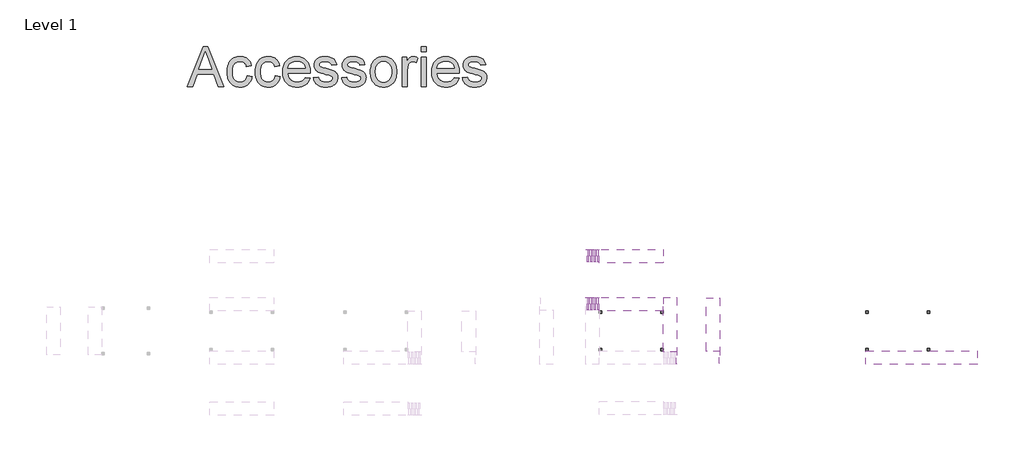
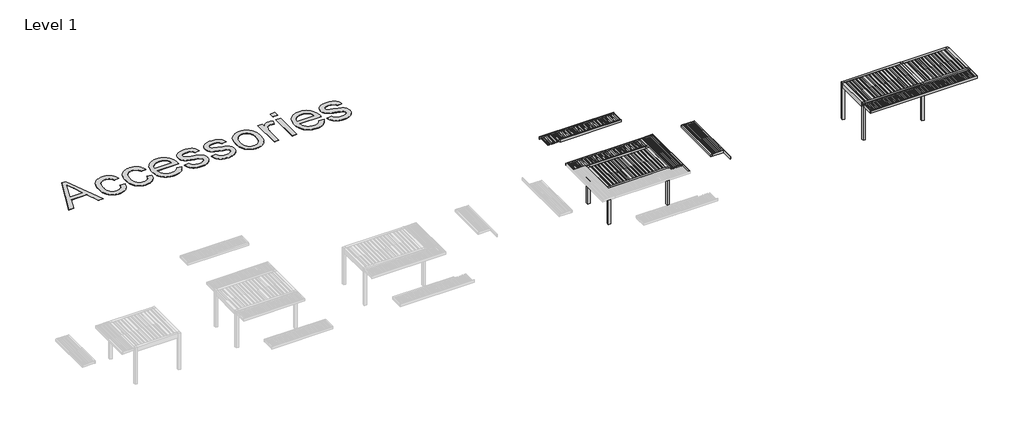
# One storey, part 80 of 80: 8 proxies.
"""IFC4 building model written with IfcOpenShell, lengths in millimetres."""

from ifc_helpers import new_model, si_unit, origin, origin_with_axes, place, context, project, spatial, polyline, outline, extrude, transform, mapped, element, save
from components import generic_models_fbfd15e4, generic_models_1ecb08e6, generic_models_1129b3c2, generic_models_e44263f4, generic_models_2a29c63b, generic_models_a3065196

model = new_model("IFC4")

# Units and contexts
model_context = context("Model", 3, world=origin())
ifc_project = project(units=[si_unit("LENGTHUNIT", "METRE", prefix="MILLI")], contexts=[model_context])

# Site, building, storey
site = spatial("IfcSite", under=ifc_project)
building = spatial("IfcBuilding", under=site)
storey = spatial("IfcBuildingStorey", under=building, Name="Level 1", Elevation=0.0)

# Proxies
placement = place(None, origin())
generic_models_shape = generic_models_fbfd15e4(model_context)
element("IfcBuildingElementProxy", 1, Name="Renson_Amani_Canopy : Renson_Amani_Canopy", ObjectType="Renson_Amani_Canopy : Renson_Amani_Canopy", at=placement, inside=storey, context=model_context, shape_type="MappedRepresentation", body=[
    mapped(generic_models_shape, transform((418390.0966626, 69028.5861401, 2535.0), x_axis=(-1.0, 0.0, 0.0), y_axis=(0.0, -1.0, 0.0), z_axis=(0.0, 0.0, 1.0))),
])
element("IfcBuildingElementProxy", 2, Name="Renson_Amani_Canopy : Renson_Amani_Canopy", ObjectType="Renson_Amani_Canopy : Renson_Amani_Canopy", at=placement, inside=storey, context=model_context, shape_type="MappedRepresentation", body=[
    mapped(generic_models_shape, transform((418390.0966626, 72028.5861401, 2535.0), x_axis=(-1.0, 0.0, 0.0), y_axis=(0.0, -1.0, 0.0), z_axis=(0.0, 0.0, 1.0))),
])
generic_models_2_shape = generic_models_1ecb08e6(model_context)
element("IfcBuildingElementProxy", 3, Name="Renson_Amani_Canopy : Renson_Amani_Canopy", ObjectType="Renson_Amani_Canopy : Renson_Amani_Canopy", at=placement, inside=storey, context=model_context, shape_type="MappedRepresentation", body=[
    mapped(generic_models_2_shape, transform((421090.0966626, 66493.5861401, 2535.0), x_axis=(0.0, 1.0, 0.0), y_axis=(-1.0, 0.0, 0.0), z_axis=(0.0, 0.0, 1.0))),
])
generic_models_3_shape = generic_models_1129b3c2(model_context)
element("IfcBuildingElementProxy", 4, Name="Renson_Amani_Canopy : Renson_Amani_Canopy", ObjectType="Renson_Amani_Canopy : Renson_Amani_Canopy", at=placement, inside=storey, context=model_context, shape_type="MappedRepresentation", body=[
    mapped(generic_models_3_shape, transform((418390.0966626, 66458.5861401, 2535.0), x_axis=(0.0, 1.0, 0.0), y_axis=(-1.0, 0.0, 0.0), z_axis=(0.0, 0.0, 1.0))),
])
generic_models_4_shape = generic_models_e44263f4(model_context)
element("IfcBuildingElementProxy", 5, Name="Renson_Amani_Patio_Cover : Renson_Amani_Patio_Cover", ObjectType="Renson_Amani_Patio_Cover : Renson_Amani_Patio_Cover", at=placement, inside=storey, context=model_context, shape_type="MappedRepresentation", body=[
    mapped(generic_models_4_shape, transform((416390.0966626, 67778.5861401, 0.0), x_axis=(1.0, 0.0, 0.0), y_axis=(0.0, 1.0, 0.0), z_axis=(0.0, 0.0, 1.0))),
])
generic_models_5_shape = generic_models_2a29c63b(model_context)
element("IfcBuildingElementProxy", 6, Name="Renson_Amani_Patio_Cover : Renson_Amani_Patio_Cover", ObjectType="Renson_Amani_Patio_Cover : Renson_Amani_Patio_Cover", at=placement, inside=storey, context=model_context, shape_type="MappedRepresentation", body=[
    mapped(generic_models_5_shape, transform((433090.0966626, 67778.5861401, 0.0), x_axis=(1.0, 0.0, 0.0), y_axis=(0.0, 1.0, 0.0), z_axis=(0.0, 0.0, 1.0))),
])
generic_models_6_shape = generic_models_a3065196(model_context)
element("IfcBuildingElementProxy", 7, Name="Renson_Amani_Canopy : Renson_Amani_Canopy", ObjectType="Renson_Amani_Canopy : Renson_Amani_Canopy", at=placement, inside=storey, context=model_context, shape_type="MappedRepresentation", body=[
    mapped(generic_models_6_shape, transform((431090.0966626, 66528.5861401, 2535.0), x_axis=(1.0, 0.0, 0.0), y_axis=(0.0, 1.0, 0.0), z_axis=(0.0, 0.0, 1.0))),
])
element("IfcBuildingElementProxy", 8, Name="2500 mm Arial", ObjectType="2500 mm Arial", at=placement, inside=storey, context=model_context, shape_type="SweptSolid", body=[
    extrude(outline(polyline([(388568.2000815, 83108.8344652), (389570.6785183, 85620.2422189), (389838.0061015, 85620.2422189), (390840.4845383, 83108.8344652), (390508.777606, 83108.8344652), (390221.2165131, 83893.6493882), (389186.85497, 83893.6493882), (388899.9070138, 83108.8344652), (388568.2000815, 83108.8344652)]), holes=[polyline([(389302.1246618, 84207.5753575), (390106.559958, 84207.5753575), (389880.3125309, 84825.0039727), (389704.3423099, 85306.3162497), (389547.992462, 84878.9599987), (389302.1246618, 84207.5753575)])]), origin_with_axes(), (0.0, 0.0, 1.0), 5.0),
    extrude(outline(polyline([(392313.851929, 83775.9271498), (392627.7778982, 83736.6864036), (392613.1105197, 83660.4898034), (392593.6338506, 83588.556419), (392569.3478907, 83520.8862504), (392540.2526402, 83457.4792977), (392506.3480991, 83398.3355608), (392467.6342672, 83343.4550397), (392424.1111447, 83292.8377345), (392375.7787316, 83246.4836451), (392323.604634, 83205.0250687), (392268.5564584, 83169.0943024), (392210.6342047, 83138.6913464), (392149.8378728, 83113.8162006), (392086.167463, 83094.4688649), (392019.622975, 83080.6493394), (391950.2044089, 83072.3576241), (391877.9117647, 83069.593719), (391787.6034411, 83073.4497738), (391701.8457411, 83085.0179381), (391620.6386648, 83104.298212), (391543.982212, 83131.2905953), (391471.876383, 83165.9950882), (391404.3211775, 83208.4116907), (391341.3165957, 83258.5404026), (391282.8626375, 83316.3812241), (391230.1951566, 83381.4264014), (391184.5500064, 83453.1681806), (391145.9271871, 83531.6065617), (391114.3266985, 83616.7415448), (391089.7485407, 83708.5731298), (391072.1927137, 83807.1013168), (391061.6592176, 83912.3261057), (391058.1480522, 84024.2474965), (391064.1452951, 84168.5836981), (391071.6418488, 84237.259794), (391082.1370239, 84303.6078866), (391095.6308205, 84367.627976), (391112.1232386, 84429.3200622), (391131.6142782, 84488.6841451), (391154.1039392, 84545.7202247), (391179.6640737, 84599.8439052), (391208.3665335, 84650.4707907), (391240.2113187, 84697.6008812), (391275.1984293, 84741.2341767), (391313.3278653, 84781.3706772), (391354.5996266, 84818.0103827), (391399.0137133, 84851.1532932), (391446.5701254, 84880.7994086), (391496.2294046, 84906.9535192), (391546.9520927, 84929.6204151), (391598.7381897, 84948.8000962), (391651.5876956, 84964.4925625), (391705.5006104, 84976.6978141), (391760.4769341, 84985.415851), (391816.5166667, 84990.6466731), (391873.6198081, 84992.3902805), (391944.9208954, 84989.9952154), (392012.8976322, 84982.8100202), (392077.5500188, 84970.8346949), (392138.8780551, 84954.0692393), (392196.881741, 84932.5136537), (392251.5610766, 84906.1679379), (392302.9160619, 84875.0320919), (392350.9466969, 84839.1061158), (392395.2314501, 84798.77322), (392435.34879, 84754.4166149), (392471.2987168, 84706.0363004), (392503.0812303, 84653.6322766), (392530.6963306, 84597.2045435), (392554.1440176, 84536.7531011), (392573.4242915, 84472.2779493), (392588.5371521, 84403.7790882), (392274.6111829, 84364.5383421), (392250.1048771, 84437.8656543), (392217.6661157, 84501.4977432), (392177.2948988, 84555.4346086), (392128.9912265, 84599.6762507), (392073.9813719, 84634.1460272), (392013.4916084, 84658.7672961), (391947.521936, 84673.5400575), (391876.0723548, 84678.4643113), (391821.4313402, 84676.0405054), (391769.4057367, 84668.7690879), (391719.9955442, 84656.6500586), (391673.2007628, 84639.6834176), (391629.0213925, 84617.8691649), (391587.4574332, 84591.2073006), (391548.508885, 84559.6978245), (391512.1757479, 84523.3407367), (391479.3394057, 84481.7432465), (391450.8812425, 84434.5125632), (391426.8012583, 84381.648687), (391407.099453, 84323.1516176), (391391.7758267, 84259.0213552), (391380.8303793, 84189.2578998), (391374.2631109, 84113.8612513), (391372.0740214, 84032.8314098), (391374.2152096, 83950.5226035), (391380.6387741, 83874.0481757), (391391.344715, 83803.4081264), (391406.3330322, 83738.6024557), (391425.6037258, 83679.6311635), (391449.1567957, 83626.4942498), (391476.992242, 83579.1917146), (391509.1100646, 83537.7235579), (391544.6863612, 83501.582026), (391582.8972293, 83470.2593649), (391623.7426691, 83443.7555748), (391667.2226804, 83422.0706557), (391713.3372633, 83405.2046074), (391762.0864178, 83393.1574301), (391813.4701439, 83385.9291237), (391867.4884415, 83383.5196883), (391952.4270293, 83389.5360917), (391992.1515786, 83397.0565961), (392030.0462982, 83407.5853021), (392066.111188, 83421.1222099), (392100.3462482, 83437.6673194), (392132.7514786, 83457.2206307), (392163.3268793, 83479.7821437), (392191.6317584, 83505.4668215), (392217.2254237, 83534.3896273), (392240.1078754, 83566.5505611), (392260.2791135, 83601.9496229), (392277.7391379, 83640.5868127), (392292.4879486, 83682.4621304), (392304.5255456, 83727.5755761), (392313.851929, 83775.9271498)])), origin_with_axes(), (0.0, 0.0, 1.0), 5.0),
    extrude(outline(polyline([(394079.6855059, 83775.9271498), (394393.6114751, 83736.6864036), (394378.9440966, 83660.4898034), (394359.4674274, 83588.556419), (394335.1814676, 83520.8862504), (394306.0862171, 83457.4792977), (394272.1816759, 83398.3355608), (394233.4678441, 83343.4550397), (394189.9447216, 83292.8377345), (394141.6123084, 83246.4836451), (394089.4382109, 83205.0250687), (394034.3900352, 83169.0943024), (393976.4677815, 83138.6913464), (393915.6714497, 83113.8162006), (393852.0010398, 83094.4688649), (393785.4565518, 83080.6493394), (393716.0379857, 83072.3576241), (393643.7453416, 83069.593719), (393553.437018, 83073.4497738), (393467.679318, 83085.0179381), (393386.4722416, 83104.298212), (393309.8157889, 83131.2905953), (393237.7099598, 83165.9950882), (393170.1547544, 83208.4116907), (393107.1501726, 83258.5404026), (393048.6962144, 83316.3812241), (392996.0287334, 83381.4264014), (392950.3835833, 83453.1681806), (392911.7607639, 83531.6065617), (392880.1602754, 83616.7415448), (392855.5821176, 83708.5731298), (392838.0262906, 83807.1013168), (392827.4927944, 83912.3261057), (392823.981629, 84024.2474965), (392829.9788719, 84168.5836981), (392837.4754256, 84237.259794), (392847.9706008, 84303.6078866), (392861.4643974, 84367.627976), (392877.9568155, 84429.3200622), (392897.447855, 84488.6841451), (392919.9375161, 84545.7202247), (392945.4976505, 84599.8439052), (392974.2001104, 84650.4707907), (393006.0448956, 84697.6008812), (393041.0320062, 84741.2341767), (393079.1614421, 84781.3706772), (393120.4332035, 84818.0103827), (393164.8472902, 84851.1532932), (393212.4037022, 84880.7994086), (393262.0629815, 84906.9535192), (393312.7856696, 84929.6204151), (393364.5717666, 84948.8000962), (393417.4212725, 84964.4925625), (393471.3341873, 84976.6978141), (393526.3105109, 84985.415851), (393582.3502435, 84990.6466731), (393639.453385, 84992.3902805), (393710.7544722, 84989.9952154), (393778.7312091, 84982.8100202), (393843.3835957, 84970.8346949), (393904.7116319, 84954.0692393), (393962.7153179, 84932.5136537), (394017.3946535, 84906.1679379), (394068.7496388, 84875.0320919), (394116.7802737, 84839.1061158), (394161.0650269, 84798.77322), (394201.1823669, 84754.4166149), (394237.1322936, 84706.0363004), (394268.9148071, 84653.6322766), (394296.5299074, 84597.2045435), (394319.9775945, 84536.7531011), (394339.2578683, 84472.2779493), (394354.3707289, 84403.7790882), (394040.4447597, 84364.5383421), (394015.9384539, 84437.8656543), (393983.4996926, 84501.4977432), (393943.1284757, 84555.4346086), (393894.8248033, 84599.6762507), (393839.8149487, 84634.1460272), (393779.3251852, 84658.7672961), (393713.3555129, 84673.5400575), (393641.9059316, 84678.4643113), (393587.264917, 84676.0405054), (393535.2393135, 84668.7690879), (393485.8291211, 84656.6500586), (393439.0343397, 84639.6834176), (393394.8549694, 84617.8691649), (393353.2910101, 84591.2073006), (393314.3424619, 84559.6978245), (393278.0093247, 84523.3407367), (393245.1729826, 84481.7432465), (393216.7148194, 84434.5125632), (393192.6348351, 84381.648687), (393172.9330298, 84323.1516176), (393157.6094035, 84259.0213552), (393146.6639561, 84189.2578998), (393140.0966877, 84113.8612513), (393137.9075982, 84032.8314098), (393140.0487864, 83950.5226035), (393146.4723509, 83874.0481757), (393157.1782918, 83803.4081264), (393172.166609, 83738.6024557), (393191.4373026, 83679.6311635), (393214.9903725, 83626.4942498), (393242.8258188, 83579.1917146), (393274.9436414, 83537.7235579), (393310.519938, 83501.582026), (393348.7308062, 83470.2593649), (393389.5762459, 83443.7555748), (393433.0562573, 83422.0706557), (393479.1708402, 83405.2046074), (393527.9199947, 83393.1574301), (393579.3037207, 83385.9291237), (393633.3220184, 83383.5196883), (393718.2606061, 83389.5360917), (393757.9851554, 83397.0565961), (393795.879875, 83407.5853021), (393831.9447649, 83421.1222099), (393866.179825, 83437.6673194), (393898.5850555, 83457.2206307), (393929.1604562, 83479.7821437), (393957.4653352, 83505.4668215), (393983.0590006, 83534.3896273), (394005.9414523, 83566.5505611), (394026.1126903, 83601.9496229), (394043.5727147, 83640.5868127), (394058.3215254, 83682.4621304), (394070.3591225, 83727.5755761), (394079.6855059, 83775.9271498)])), origin_with_axes(), (0.0, 0.0, 1.0), 5.0),
    extrude(outline(polyline([(395959.5625012, 83658.2049113), (396267.3571039, 83618.9641652), (396245.8254689, 83555.4949408), (396220.1647417, 83495.6853758), (396190.3749223, 83439.5354702), (396156.4560107, 83387.0452241), (396118.408007, 83338.2146373), (396076.2309111, 83293.0437101), (396029.9247229, 83251.5324422), (395979.4894426, 83213.6808338), (395925.1741569, 83179.9104163), (395867.2279525, 83150.6427211), (395805.6508295, 83125.8777483), (395740.4427879, 83105.6154977), (395671.6038275, 83089.8559696), (395599.1339486, 83078.5991637), (395523.0331509, 83071.8450802), (395443.3014347, 83069.593719), (395343.2547764, 83073.4785146), (395248.5155824, 83085.1329012), (395159.0838526, 83104.556879), (395074.959587, 83131.7504478), (394996.1427856, 83166.7136077), (394922.6334484, 83209.4463588), (394854.4315754, 83259.9487009), (394791.5371665, 83318.2206341), (394735.0615321, 83383.5053179), (394686.1159823, 83455.0459116), (394644.7005171, 83532.8424153), (394610.8151364, 83616.894829), (394584.4598404, 83707.2031526), (394565.6346289, 83803.7673862), (394554.339502, 83906.5875298), (394550.5744597, 84015.6635833), (394554.377823, 84128.4519877), (394565.787913, 84234.7449756), (394584.8047297, 84334.5425471), (394611.4282731, 84427.8447021), (394645.6585431, 84514.6514406), (394687.4955398, 84594.9627626), (394736.9392631, 84668.7786681), (394793.9897132, 84736.0991572), (394857.104468, 84796.1673892), (394924.7411056, 84848.2265236), (394996.8996261, 84892.2765605), (395073.5800295, 84928.3174997), (395154.7823157, 84956.3493413), (395240.5064848, 84976.3720853), (395330.7525368, 84988.3857317), (395425.5204716, 84992.3902805), (395517.1891922, 84988.395312), (395604.5755364, 84976.4104063), (395687.6795043, 84956.4355636), (395766.5010958, 84928.4707838), (395841.040311, 84892.516067), (395911.2971499, 84848.571413), (395977.2716124, 84796.636822), (396038.9636985, 84736.7122939), (396094.7926654, 84669.545089), (396143.17777, 84595.8824676), (396184.1190123, 84515.7244297), (396217.6163924, 84429.0709754), (396243.6699103, 84335.9221046), (396262.2795659, 84236.2778173), (396273.4453593, 84130.1381135), (396277.1672904, 84017.5029933), (396275.3278804, 83932.8901344), (394864.5004289, 83932.8901344), (394871.3455249, 83868.3095998), (394882.683763, 83807.6186508), (394898.5151431, 83750.8172876), (394918.8396653, 83697.90551), (394943.6573296, 83648.8833181), (394972.9681359, 83603.7507118), (395006.7720844, 83562.5076913), (395045.0691749, 83525.1542564), (395086.8630604, 83491.9586545), (395131.1573939, 83463.1891328), (395177.9521753, 83438.8456914), (395227.2474046, 83418.9283303), (395279.0430818, 83403.4370494), (395333.339207, 83392.3718488), (395390.1357802, 83385.7327284), (395449.4328013, 83383.5196883), (395536.2682805, 83387.6200397), (395616.5125407, 83399.9210939), (395690.1655818, 83420.4228509), (395757.2274039, 83449.1253107), (395817.6980068, 83486.7948942), (395871.5773907, 83534.1980221), (395918.8655555, 83591.3346945), (395959.5625012, 83658.2049113)]), holes=[polyline([(394864.5004289, 84246.8161036), (395963.2413212, 84246.8161036), (395947.1081629, 84335.644277), (395935.2190598, 84375.6322835), (395920.7816076, 84412.6695698), (395903.7958061, 84446.7561359), (395884.2616553, 84477.8919818), (395862.1791554, 84506.0771076), (395837.5483062, 84531.3115132), (395796.2190633, 84565.8004503), (395751.9391002, 84595.6908624), (395704.708417, 84620.9827495), (395654.5270136, 84641.6761118), (395601.39489, 84657.7709491), (395545.3120462, 84669.2672614), (395486.2784823, 84676.1650488), (395424.2941982, 84678.4643113), (395367.9574776, 84676.6296914), (395313.9104392, 84671.1258319), (395262.153083, 84661.9527327), (395212.6854089, 84649.1103938), (395165.5074171, 84632.5988151), (395120.6191075, 84612.4179968), (395078.0204802, 84588.5679388), (395037.711535, 84561.0486412), (395000.7365204, 84530.4540799), (394968.1396848, 84497.3782313), (394939.9210281, 84461.8210952), (394916.0805503, 84423.7826717), (394896.6182515, 84383.2629608), (394881.5341317, 84340.2619625), (394870.8281908, 84294.7796768), (394864.5004289, 84246.8161036)])]), origin_with_axes(), (0.0, 0.0, 1.0), 5.0),
    extrude(outline(polyline([(396473.3710212, 83658.2049113), (396787.2969904, 83697.4456575), (396795.3348288, 83660.5424948), (396806.2659058, 83625.8619526), (396820.0902214, 83593.4040307), (396836.8077756, 83563.1687292), (396856.4185684, 83535.1560482), (396878.9225998, 83509.3659874), (396904.3198698, 83485.7985471), (396932.6103785, 83464.4537272), (396963.8324468, 83445.4848118), (396998.0243957, 83429.0450852), (397035.1862254, 83415.1345472), (397075.3179358, 83403.753198), (397164.4909986, 83388.5780657), (397265.5435841, 83383.5196883), (397366.4812065, 83388.1565342), (397453.46997, 83402.0670722), (397491.7335296, 83412.4999756), (397526.5098744, 83425.2513021), (397557.7990045, 83440.3210515), (397585.6009199, 83457.709224), (397631.2029589, 83496.4134755), (397663.7758439, 83538.3366946), (397675.1763536, 83560.5054169), (397683.3195749, 83583.4788811), (397688.2055076, 83607.2570871), (397689.8341519, 83631.840035), (397688.1959274, 83653.6255469), (397683.2812538, 83674.2231065), (397675.0901313, 83693.6327139), (397663.6225597, 83711.854369), (397630.8580695, 83744.7338223), (397584.9877833, 83772.8614665), (397537.2014449, 83791.5621346), (397467.418829, 83812.7153493), (397261.8647642, 83862.3794187), (397106.0897318, 83905.3181453), (396975.3766604, 83945.2295097), (396869.7255499, 83982.1135118), (396789.1364004, 84015.9701516), (396725.1977432, 84051.4362752), (396669.4981098, 84093.1487285), (396622.0375004, 84141.1075116), (396582.8159147, 84195.3126243), (396552.1016002, 84254.1354225), (396530.1628042, 84315.9472619), (396516.9995265, 84380.7481425), (396512.6117673, 84448.5380643), (396516.1373031, 84510.5223484), (396526.7139105, 84570.169049), (396544.3415894, 84627.478166), (396569.0203399, 84682.4496996), (396599.792136, 84733.9723394), (396635.6989515, 84780.9347754), (396676.7407866, 84823.3370074), (396722.9176412, 84861.1790356), (396762.9822898, 84887.4481093), (396809.5998363, 84911.6861678), (396862.770281, 84933.8932112), (396922.4936236, 84954.0692393), (396986.623886, 84970.8346949), (397053.0150898, 84982.8100202), (397121.6672351, 84989.9952154), (397192.5803217, 84992.3902805), (397298.0781481, 84988.5390159), (397396.9081132, 84976.985222), (397489.0702172, 84957.7288988), (397574.5644601, 84930.7700463), (397651.3598266, 84897.2391353), (397717.4253015, 84858.2666364), (397772.760885, 84813.8525497), (397817.3665769, 84763.9968752), (397853.5416397, 84706.9560054), (397883.585336, 84640.986333), (397907.4976657, 84566.0878581), (397925.2786288, 84482.2605805), (397611.3526596, 84443.0198344), (397596.388293, 84495.4621792), (397571.728703, 84541.8114785), (397537.3738896, 84582.0677322), (397493.3238528, 84616.2309404), (397439.3869874, 84643.4580402), (397375.3716881, 84662.9059686), (397301.277955, 84674.5747256), (397217.1057881, 84678.4643113), (397119.4637752, 84674.7471703), (397036.8436104, 84663.5957473), (396969.2452938, 84645.0100424), (396941.0793286, 84632.9293341), (396916.6688253, 84618.9900554), (396877.236474, 84588.0266541), (396849.0705087, 84554.6107062), (396832.1709296, 84518.7422117), (396826.5377365, 84480.4211706), (396828.87532, 84455.6274569), (396835.8880706, 84432.1366587), (396847.5759881, 84409.9487759), (396863.9390727, 84389.0638084), (396885.2838926, 84368.8686197), (396911.9170162, 84350.5894831), (396943.8384435, 84334.2263985), (396981.0481745, 84319.779366), (397071.6391158, 84295.7137521), (397251.441441, 84252.9474702), (397528.8091369, 84170.9404421), (397632.2567875, 84136.0299736), (397712.2136399, 84105.1815355), (397776.7462732, 84073.106824), (397833.9212667, 84034.5175356), (397883.7386202, 83989.4136701), (397926.1983338, 83937.7952277), (397960.1316157, 83879.5855661), (397984.3696743, 83814.7080434), (397998.9125094, 83743.1626596), (398003.7601211, 83664.9494146), (397998.0694465, 83586.3912802), (397980.9974226, 83510.1324083), (397952.5440496, 83436.1727988), (397912.7093273, 83364.5124518), (397888.6868246, 83330.2582312), (397862.1447135, 83298.0062849), (397833.0829939, 83267.756613), (397801.5016658, 83239.5092156), (397730.7801844, 83189.0212438), (397649.9802691, 83146.5423697), (397561.3053798, 83112.877335), (397466.9589765, 83088.8308817), (397366.941059, 83074.4030097), (397261.2516275, 83069.593719), (397174.0999996, 83071.912142), (397092.294157, 83078.867411), (397015.8340996, 83090.459526), (396944.7198275, 83106.6884869), (396878.9513406, 83127.5542938), (396818.5286389, 83153.0569467), (396763.4517225, 83183.1964456), (396713.7205913, 83217.9727904), (396668.7891706, 83257.3093392), (396628.1113854, 83301.1294498), (396591.6872358, 83349.4331222), (396559.5167217, 83402.2203564), (396531.5998432, 83459.4911524), (396507.9366003, 83521.2455102), (396488.5269929, 83587.4834299), (396473.3710212, 83658.2049113)])), origin_with_axes(), (0.0, 0.0, 1.0), 5.0),
    extrude(outline(polyline([(398239.204598, 83658.2049113), (398553.1305672, 83697.4456575), (398561.1684056, 83660.5424948), (398572.0994826, 83625.8619526), (398585.9237982, 83593.4040307), (398602.6413524, 83563.1687292), (398622.2521452, 83535.1560482), (398644.7561767, 83509.3659874), (398670.1534467, 83485.7985471), (398698.4439553, 83464.4537272), (398729.6660236, 83445.4848118), (398763.8579726, 83429.0450852), (398801.0198023, 83415.1345472), (398841.1515126, 83403.753198), (398930.3245754, 83388.5780657), (399031.377161, 83383.5196883), (399132.3147834, 83388.1565342), (399219.3035468, 83402.0670722), (399257.5671064, 83412.4999756), (399292.3434513, 83425.2513021), (399323.6325814, 83440.3210515), (399351.4344968, 83457.709224), (399397.0365357, 83496.4134755), (399429.6094207, 83538.3366946), (399441.0099305, 83560.5054169), (399449.1531517, 83583.4788811), (399454.0390845, 83607.2570871), (399455.6677287, 83631.840035), (399454.0295042, 83653.6255469), (399449.1148307, 83674.2231065), (399440.9237081, 83693.6327139), (399429.4561366, 83711.854369), (399396.6916464, 83744.7338223), (399350.8213601, 83772.8614665), (399303.0350218, 83791.5621346), (399233.2524058, 83812.7153493), (399027.698341, 83862.3794187), (398871.9233087, 83905.3181453), (398741.2102373, 83945.2295097), (398635.5591268, 83982.1135118), (398554.9699772, 84015.9701516), (398491.03132, 84051.4362752), (398435.3316867, 84093.1487285), (398387.8710772, 84141.1075116), (398348.6494916, 84195.3126243), (398317.9351771, 84254.1354225), (398295.996381, 84315.9472619), (398282.8331034, 84380.7481425), (398278.4453442, 84448.5380643), (398281.9708799, 84510.5223484), (398292.5474873, 84570.169049), (398310.1751662, 84627.478166), (398334.8539168, 84682.4496996), (398365.6257128, 84733.9723394), (398401.5325284, 84780.9347754), (398442.5743635, 84823.3370074), (398488.7512181, 84861.1790356), (398528.8158666, 84887.4481093), (398575.4334132, 84911.6861678), (398628.6038578, 84933.8932112), (398688.3272005, 84954.0692393), (398752.4574628, 84970.8346949), (398818.8486667, 84982.8100202), (398887.5008119, 84989.9952154), (398958.4138986, 84992.3902805), (399063.9117249, 84988.5390159), (399162.7416901, 84976.985222), (399254.9037941, 84957.7288988), (399340.3980369, 84930.7700463), (399417.1934034, 84897.2391353), (399483.2588784, 84858.2666364), (399538.5944618, 84813.8525497), (399583.2001537, 84763.9968752), (399619.3752166, 84706.9560054), (399649.4189129, 84640.986333), (399673.3312425, 84566.0878581), (399691.1122056, 84482.2605805), (399377.1862364, 84443.0198344), (399362.2218698, 84495.4621792), (399337.5622799, 84541.8114785), (399303.2074665, 84582.0677322), (399259.1574296, 84616.2309404), (399205.2205642, 84643.4580402), (399141.2052649, 84662.9059686), (399067.1115318, 84674.5747256), (398982.9393649, 84678.4643113), (398885.297352, 84674.7471703), (398802.6771873, 84663.5957473), (398735.0788707, 84645.0100424), (398706.9129054, 84632.9293341), (398682.5024022, 84618.9900554), (398643.0700508, 84588.0266541), (398614.9040856, 84554.6107062), (398598.0045064, 84518.7422117), (398592.3713134, 84480.4211706), (398594.7088969, 84455.6274569), (398601.7216474, 84432.1366587), (398613.409565, 84409.9487759), (398629.7726496, 84389.0638084), (398651.1174695, 84368.8686197), (398677.7505931, 84350.5894831), (398709.6720204, 84334.2263985), (398746.8817514, 84319.779366), (398837.4726927, 84295.7137521), (399017.2750178, 84252.9474702), (399294.6427138, 84170.9404421), (399398.0903644, 84136.0299736), (399478.0472168, 84105.1815355), (399542.5798501, 84073.106824), (399599.7548435, 84034.5175356), (399649.572197, 83989.4136701), (399692.0319106, 83937.7952277), (399725.9651926, 83879.5855661), (399750.2032511, 83814.7080434), (399764.7460862, 83743.1626596), (399769.5936979, 83664.9494146), (399763.9030233, 83586.3912802), (399746.8309995, 83510.1324083), (399718.3776264, 83436.1727988), (399678.5429041, 83364.5124518), (399654.5204015, 83330.2582312), (399627.9782903, 83298.0062849), (399598.9165707, 83267.756613), (399567.3352427, 83239.5092156), (399496.6137612, 83189.0212438), (399415.8138459, 83146.5423697), (399327.1389567, 83112.877335), (399232.7925533, 83088.8308817), (399132.7746359, 83074.4030097), (399027.0852043, 83069.593719), (398939.9335765, 83071.912142), (398858.1277339, 83078.867411), (398781.6676765, 83090.459526), (398710.5534043, 83106.6884869), (398644.7849174, 83127.5542938), (398584.3622158, 83153.0569467), (398529.2852994, 83183.1964456), (398479.5541682, 83217.9727904), (398434.6227474, 83257.3093392), (398393.9449622, 83301.1294498), (398357.5208126, 83349.4331222), (398325.3502985, 83402.2203564), (398297.4334201, 83459.4911524), (398273.7701771, 83521.2455102), (398254.3605698, 83587.4834299), (398239.204598, 83658.2049113)])), origin_with_axes(), (0.0, 0.0, 1.0), 5.0),
    extrude(outline(polyline([(400044.278921, 84030.9919998), (400048.5229763, 84154.5486168), (400061.2551422, 84269.8470494), (400082.4754188, 84376.8872976), (400112.183806, 84475.6693614), (400150.3803037, 84566.1932409), (400197.0649121, 84648.4589361), (400252.2376311, 84722.4664468), (400315.8984608, 84788.2157732), (400374.1656039, 84836.0691733), (400435.5367513, 84877.5421201), (400500.0119031, 84912.6346136), (400567.5910591, 84941.3466537), (400638.2742196, 84963.6782404), (400712.0613843, 84979.6293738), (400788.9525534, 84989.2000538), (400868.9477269, 84992.3902805), (400957.617826, 84988.505485), (401042.1396724, 84976.8510983), (401122.5132661, 84957.4271206), (401198.7386071, 84930.2335517), (401270.8156954, 84895.2703918), (401338.744531, 84852.5376408), (401402.5251139, 84802.0352987), (401462.1574441, 84743.7633654), (401516.1182602, 84678.6415461), (401562.8843008, 84607.5895457), (401602.4555659, 84530.6073641), (401634.8320556, 84447.6950014), (401660.0137697, 84358.8524576), (401678.0007084, 84264.0797327), (401688.7928717, 84163.3768266), (401692.3902594, 84056.7437394), (401690.7999362, 83970.3585324), (401686.0289666, 83888.7059739), (401678.0773505, 83811.7860641), (401666.9450881, 83739.5988028), (401652.6321792, 83672.1441901), (401635.1386239, 83609.4222259), (401614.4644222, 83551.4329104), (401590.6095741, 83498.1762434), (401563.7129933, 83448.7085694), (401533.9135937, 83402.0862327), (401501.2113752, 83358.3092333), (401465.6063378, 83317.3775712), (401427.0984816, 83279.2912464), (401385.6878064, 83244.0502589), (401341.3743125, 83211.6546088), (401294.1579996, 83182.1042959), (401244.9298321, 83155.7346295), (401194.5807742, 83132.8809185), (401143.1108257, 83113.5431631), (401090.5199869, 83097.7213633), (401036.8082576, 83085.4155189), (400981.9756378, 83076.6256301), (400926.0221275, 83071.3516968), (400868.9477269, 83069.593719), (400778.8789097, 83073.4641442), (400693.2265926, 83085.0754197), (400611.9907755, 83104.4275455), (400535.1714583, 83131.5205216), (400462.7686412, 83166.354348), (400394.782324, 83208.9290247), (400331.2125069, 83259.2445518), (400272.0591897, 83317.3009291), (400218.6731892, 83382.6383043), (400172.4053221, 83454.7968248), (400133.2555885, 83533.7764907), (400101.2239882, 83619.5773018), (400076.3105213, 83712.1992583), (400058.5151878, 83811.6423602), (400047.8379877, 83917.9066073), (400044.278921, 84030.9919998)]), holes=[polyline([(400358.2048902, 84031.6051364), (400360.4754119, 83952.9176685), (400367.286977, 83879.3364794), (400378.6395854, 83810.8615689), (400394.5332373, 83747.4929372), (400414.9679325, 83689.2305843), (400439.943671, 83636.0745101), (400469.460453, 83588.0247146), (400503.5182783, 83545.0811978), (400541.0154171, 83507.215219), (400580.8501394, 83474.3980374), (400623.0224452, 83446.6296529), (400667.5323345, 83423.9100657), (400714.3798073, 83406.2392755), (400763.5648637, 83393.6172826), (400815.0875035, 83386.0440869), (400868.9477269, 83383.5196883), (400922.5205424, 83386.0584572), (400973.7940955, 83393.6747642), (401022.7683861, 83406.3686091), (401069.4434142, 83424.1399919), (401113.8191799, 83446.9889127), (401155.8956831, 83474.9153714), (401195.6729238, 83507.9193681), (401233.1509021, 83546.0009028), (401267.2087274, 83589.2845188), (401296.7255094, 83637.8947595), (401321.701248, 83691.831625), (401342.1359432, 83751.0951151), (401358.029595, 83815.68523), (401369.3822034, 83885.6019696), (401376.1937685, 83960.8453339), (401378.4642902, 84041.415323), (401376.1793981, 84117.5161206), (401369.3247219, 84188.8555289), (401357.9002615, 84255.4335477), (401341.9060169, 84317.2501773), (401321.3419882, 84374.3054174), (401296.2081753, 84426.5992682), (401266.5045783, 84474.1317297), (401232.2311971, 84516.9028017), (401194.5664038, 84554.7687805), (401154.6885703, 84587.5859622), (401112.5976967, 84615.3543466), (401068.293783, 84638.0739339), (401021.7768292, 84655.744724), (400973.0468352, 84668.3667169), (400922.1038011, 84675.9399127), (400868.9477269, 84678.4643113), (400815.0875035, 84675.949493), (400763.5648637, 84668.405038), (400714.3798073, 84655.8309464), (400667.5323345, 84638.2272181), (400623.0224452, 84615.5938531), (400580.8501394, 84587.9308515), (400541.0154171, 84555.2382133), (400503.5182783, 84517.5159384), (400469.460453, 84474.7161255), (400439.943671, 84426.7908734), (400414.9679325, 84373.7401821), (400394.5332373, 84315.5640515), (400378.6395854, 84252.2624816), (400367.286977, 84183.8354725), (400360.4754119, 84110.2830241), (400358.2048902, 84031.6051364)])]), origin_with_axes(), (0.0, 0.0, 1.0), 5.0),
    extrude(outline(polyline([(402045.5569748, 83108.8344652), (402045.5569748, 84953.1495344), (402320.2421978, 84953.1495344), (402320.2421978, 84680.3037213), (402371.9756034, 84767.522411), (402421.7163148, 84838.4929792), (402469.4643321, 84893.215426), (402515.2196553, 84931.6897513), (402561.0516205, 84958.2462328), (402609.0295641, 84977.2151482), (402659.1534859, 84988.5964974), (402711.423386, 84992.3902805), (402789.2917417, 84986.335556), (402867.773234, 84968.1713825), (402946.867863, 84937.89776), (403026.5756286, 84895.5146884), (402921.72926, 84614.0849621), (402866.5469607, 84642.2509274), (402811.3646614, 84662.369474), (402756.1823621, 84674.440602), (402701.0000628, 84678.4643113), (402652.8879957, 84674.5938861), (402607.2667962, 84662.9826107), (402564.1364643, 84643.6304849), (402523.4970002, 84616.5375088), (402486.8812453, 84582.5850663), (402455.8220415, 84542.6545414), (402430.3193886, 84496.7459341), (402410.3732867, 84444.8592444), (402388.1087617, 84359.1733963), (402372.2055297, 84269.50216), (402362.6635904, 84175.8455354), (402359.482944, 84078.2035225), (402359.482944, 83108.8344652), (402045.5569748, 83108.8344652)])), origin_with_axes(), (0.0, 0.0, 1.0), 5.0),
    extrude(outline(polyline([(403222.7793593, 83108.8344652), (403222.7793593, 84953.1495344), (403536.7053286, 84953.1495344), (403536.7053286, 83108.8344652), (403222.7793593, 83108.8344652)])), origin_with_axes(), (0.0, 0.0, 1.0), 5.0),
    extrude(outline(polyline([(403222.7793593, 85306.3162497), (403222.7793593, 85620.2422189), (403536.7053286, 85620.2422189), (403536.7053286, 85306.3162497), (403222.7793593, 85306.3162497)])), origin_with_axes(), (0.0, 0.0, 1.0), 5.0),
    extrude(outline(polyline([(405298.8600855, 83658.2049113), (405606.6546881, 83618.9641652), (405585.1230531, 83555.4949408), (405559.4623259, 83495.6853758), (405529.6725065, 83439.5354702), (405495.753595, 83387.0452241), (405457.7055912, 83338.2146373), (405415.5284953, 83293.0437101), (405369.2223072, 83251.5324422), (405318.7870269, 83213.6808338), (405264.4717411, 83179.9104163), (405206.5255368, 83150.6427211), (405144.9484137, 83125.8777483), (405079.7403721, 83105.6154977), (405010.9014118, 83089.8559696), (404938.4315328, 83078.5991637), (404862.3307352, 83071.8450802), (404782.5990189, 83069.593719), (404682.5523607, 83073.4785146), (404587.8131666, 83085.1329012), (404498.3814368, 83104.556879), (404414.2571712, 83131.7504478), (404335.4403698, 83166.7136077), (404261.9310326, 83209.4463588), (404193.7291596, 83259.9487009), (404130.8347508, 83318.2206341), (404074.3591164, 83383.5053179), (404025.4135665, 83455.0459116), (403983.9981013, 83532.8424153), (403950.1127206, 83616.894829), (403923.7574246, 83707.2031526), (403904.9322131, 83803.7673862), (403893.6370862, 83906.5875298), (403889.8720439, 84015.6635833), (403893.6754073, 84128.4519877), (403905.0854973, 84234.7449756), (403924.1023139, 84334.5425471), (403950.7258573, 84427.8447021), (403984.9561273, 84514.6514406), (404026.793124, 84594.9627626), (404076.2368474, 84668.7786681), (404133.2872974, 84736.0991572), (404196.4020522, 84796.1673892), (404264.0386899, 84848.2265236), (404336.1972104, 84892.2765605), (404412.8776137, 84928.3174997), (404494.0799, 84956.3493413), (404579.804069, 84976.3720853), (404670.050121, 84988.3857317), (404764.8180558, 84992.3902805), (404856.4867764, 84988.395312), (404943.8731206, 84976.4104063), (405026.9770885, 84956.4355636), (405105.7986801, 84928.4707838), (405180.3378953, 84892.516067), (405250.5947341, 84848.571413), (405316.5691966, 84796.636822), (405378.2612827, 84736.7122939), (405434.0902496, 84669.545089), (405482.4753542, 84595.8824676), (405523.4165965, 84515.7244297), (405556.9139767, 84429.0709754), (405582.9674945, 84335.9221046), (405601.5771501, 84236.2778173), (405612.7429435, 84130.1381135), (405616.4648746, 84017.5029933), (405614.6254646, 83932.8901344), (404203.7980131, 83932.8901344), (404210.6431091, 83868.3095998), (404221.9813472, 83807.6186508), (404237.8127273, 83750.8172876), (404258.1372495, 83697.90551), (404282.9549138, 83648.8833181), (404312.2657202, 83603.7507118), (404346.0696686, 83562.5076913), (404384.3667591, 83525.1542564), (404426.1606446, 83491.9586545), (404470.4549781, 83463.1891328), (404517.2497595, 83438.8456914), (404566.5449888, 83418.9283303), (404618.3406661, 83403.4370494), (404672.6367913, 83392.3718488), (404729.4333644, 83385.7327284), (404788.7303855, 83383.5196883), (404875.5658648, 83387.6200397), (404955.810125, 83399.9210939), (405029.4631661, 83420.4228509), (405096.5249881, 83449.1253107), (405156.9955911, 83486.7948942), (405210.8749749, 83534.1980221), (405258.1631397, 83591.3346945), (405298.8600855, 83658.2049113)]), holes=[polyline([(404203.7980131, 84246.8161036), (405302.5389054, 84246.8161036), (405286.4057471, 84335.644277), (405274.5166441, 84375.6322835), (405260.0791918, 84412.6695698), (405243.0933903, 84446.7561359), (405223.5592396, 84477.8919818), (405201.4767396, 84506.0771076), (405176.8458904, 84531.3115132), (405135.5166475, 84565.8004503), (405091.2366844, 84595.6908624), (405044.0060012, 84620.9827495), (404993.8245978, 84641.6761118), (404940.6924742, 84657.7709491), (404884.6096305, 84669.2672614), (404825.5760666, 84676.1650488), (404763.5917825, 84678.4643113), (404707.2550618, 84676.6296914), (404653.2080234, 84671.1258319), (404601.4506672, 84661.9527327), (404551.9829932, 84649.1103938), (404504.8050014, 84632.5988151), (404459.9166918, 84612.4179968), (404417.3180644, 84588.5679388), (404377.0091192, 84561.0486412), (404340.0341046, 84530.4540799), (404307.437269, 84497.3782313), (404279.2186123, 84461.8210952), (404255.3781346, 84423.7826717), (404235.9158358, 84383.2629608), (404220.8317159, 84340.2619625), (404210.1257751, 84294.7796768), (404203.7980131, 84246.8161036)])]), origin_with_axes(), (0.0, 0.0, 1.0), 5.0),
    extrude(outline(polyline([(405812.6686054, 83658.2049113), (406126.5945746, 83697.4456575), (406134.632413, 83660.5424948), (406145.56349, 83625.8619526), (406159.3878056, 83593.4040307), (406176.1053598, 83563.1687292), (406195.7161526, 83535.1560482), (406218.220184, 83509.3659874), (406243.6174541, 83485.7985471), (406271.9079627, 83464.4537272), (406303.130031, 83445.4848118), (406337.32198, 83429.0450852), (406374.4838096, 83415.1345472), (406414.61552, 83403.753198), (406503.7885828, 83388.5780657), (406604.8411683, 83383.5196883), (406705.7787908, 83388.1565342), (406792.7675542, 83402.0670722), (406831.0311138, 83412.4999756), (406865.8074587, 83425.2513021), (406897.0965888, 83440.3210515), (406924.8985041, 83457.709224), (406970.5005431, 83496.4134755), (407003.0734281, 83538.3366946), (407014.4739379, 83560.5054169), (407022.6171591, 83583.4788811), (407027.5030919, 83607.2570871), (407029.1317361, 83631.840035), (407027.4935116, 83653.6255469), (407022.5788381, 83674.2231065), (407014.3877155, 83693.6327139), (407002.9201439, 83711.854369), (406970.1556537, 83744.7338223), (406924.2853675, 83772.8614665), (406876.4990291, 83791.5621346), (406806.7164132, 83812.7153493), (406601.1623484, 83862.3794187), (406445.387316, 83905.3181453), (406314.6742446, 83945.2295097), (406209.0231341, 83982.1135118), (406128.4339846, 84015.9701516), (406064.4953274, 84051.4362752), (406008.7956941, 84093.1487285), (405961.3350846, 84141.1075116), (405922.1134989, 84195.3126243), (405891.3991845, 84254.1354225), (405869.4603884, 84315.9472619), (405856.2971107, 84380.7481425), (405851.9093515, 84448.5380643), (405855.4348873, 84510.5223484), (405866.0114947, 84570.169049), (405883.6391736, 84627.478166), (405908.3179241, 84682.4496996), (405939.0897202, 84733.9723394), (405974.9965358, 84780.9347754), (406016.0383708, 84823.3370074), (406062.2152254, 84861.1790356), (406102.279874, 84887.4481093), (406148.8974206, 84911.6861678), (406202.0678652, 84933.8932112), (406261.7912078, 84954.0692393), (406325.9214702, 84970.8346949), (406392.312674, 84982.8100202), (406460.9648193, 84989.9952154), (406531.877906, 84992.3902805), (406637.3757323, 84988.5390159), (406736.2056974, 84976.985222), (406828.3678014, 84957.7288988), (406913.8620443, 84930.7700463), (406990.6574108, 84897.2391353), (407056.7228857, 84858.2666364), (407112.0584692, 84813.8525497), (407156.6641611, 84763.9968752), (407192.839224, 84706.9560054), (407222.8829202, 84640.986333), (407246.7952499, 84566.0878581), (407264.576213, 84482.2605805), (406950.6502438, 84443.0198344), (406935.6858772, 84495.4621792), (406911.0262872, 84541.8114785), (406876.6714738, 84582.0677322), (406832.621437, 84616.2309404), (406778.6845716, 84643.4580402), (406714.6692723, 84662.9059686), (406640.5755392, 84674.5747256), (406556.4033723, 84678.4643113), (406458.7613594, 84674.7471703), (406376.1411947, 84663.5957473), (406308.542878, 84645.0100424), (406280.3769128, 84632.9293341), (406255.9664096, 84618.9900554), (406216.5340582, 84588.0266541), (406188.368093, 84554.6107062), (406171.4685138, 84518.7422117), (406165.8353208, 84480.4211706), (406168.1729043, 84455.6274569), (406175.1856548, 84432.1366587), (406186.8735724, 84409.9487759), (406203.2366569, 84389.0638084), (406224.5814769, 84368.8686197), (406251.2146005, 84350.5894831), (406283.1360278, 84334.2263985), (406320.3457587, 84319.779366), (406410.9367, 84295.7137521), (406590.7390252, 84252.9474702), (406868.1067211, 84170.9404421), (406971.5543718, 84136.0299736), (407051.5112241, 84105.1815355), (407116.0438575, 84073.106824), (407173.2188509, 84034.5175356), (407223.0362044, 83989.4136701), (407265.495918, 83937.7952277), (407299.4292, 83879.5855661), (407323.6672585, 83814.7080434), (407338.2100936, 83743.1626596), (407343.0577053, 83664.9494146), (407337.3670307, 83586.3912802), (407320.2950069, 83510.1324083), (407291.8416338, 83436.1727988), (407252.0069115, 83364.5124518), (407227.9844088, 83330.2582312), (407201.4422977, 83298.0062849), (407172.3805781, 83267.756613), (407140.7992501, 83239.5092156), (407070.0777686, 83189.0212438), (406989.2778533, 83146.5423697), (406900.602964, 83112.877335), (406806.2565607, 83088.8308817), (406706.2386433, 83074.4030097), (406600.5492117, 83069.593719), (406513.3975839, 83071.912142), (406431.5917412, 83078.867411), (406355.1316838, 83090.459526), (406284.0174117, 83106.6884869), (406218.2489248, 83127.5542938), (406157.8262231, 83153.0569467), (406102.7493067, 83183.1964456), (406053.0181756, 83217.9727904), (406008.0867548, 83257.3093392), (405967.4089696, 83301.1294498), (405930.98482, 83349.4331222), (405898.8143059, 83402.2203564), (405870.8974274, 83459.4911524), (405847.2341845, 83521.2455102), (405827.8245772, 83587.4834299), (405812.6686054, 83658.2049113)])), origin_with_axes(), (0.0, 0.0, 1.0), 5.0),
])

save(model, "model.ifc")
